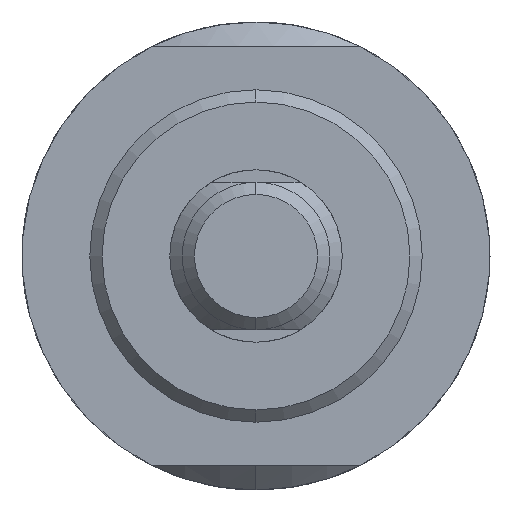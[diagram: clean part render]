
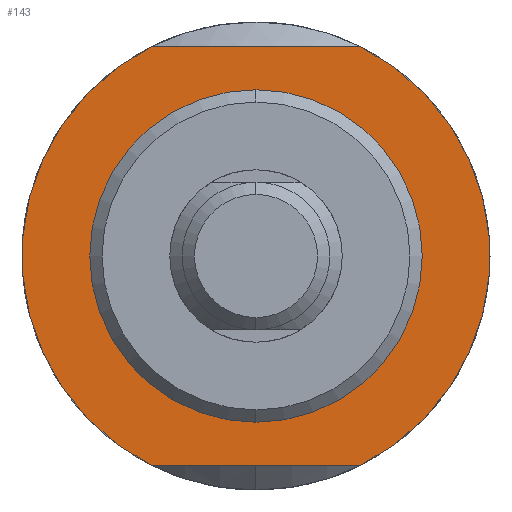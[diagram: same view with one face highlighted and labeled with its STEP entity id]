
A CAD part, left-side view. The second image highlights one B-rep face of the part: STEP entity #143.
In plain terms, the highlighted planar face has unit normal (-1, 0, 0).
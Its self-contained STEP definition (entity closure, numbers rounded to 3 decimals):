
#44 = EDGE_CURVE ( 'NONE', #1685, #86, #400, .T. ) ;
#86 = VERTEX_POINT ( 'NONE', #1959 ) ;
#88 = CARTESIAN_POINT ( 'NONE',  ( 48., 8.485, 17. ) ) ;
#113 = DIRECTION ( 'NONE',  ( 0., 0., 1. ) ) ;
#143 = ADVANCED_FACE ( 'NONE', ( #1171, #524 ), #497, .F. ) ;
#168 = EDGE_CURVE ( 'NONE', #1349, #631, #1762, .T. ) ;
#189 = CARTESIAN_POINT ( 'NONE',  ( 48., 8.485, -17. ) ) ;
#242 = AXIS2_PLACEMENT_3D ( 'NONE', #473, #1864, #1338 ) ;
#263 = DIRECTION ( 'NONE',  ( -1., 0., 0. ) ) ;
#284 = DIRECTION ( 'NONE',  ( 0., -1., 0. ) ) ;
#351 = DIRECTION ( 'NONE',  ( -1., 0., 0. ) ) ;
#372 = EDGE_CURVE ( 'NONE', #1406, #1489, #1738, .T. ) ;
#382 = ORIENTED_EDGE ( 'NONE', *, *, #1763, .F. ) ;
#400 = CIRCLE ( 'NONE', #562, 13.5 ) ;
#470 = DIRECTION ( 'NONE',  ( 0., 1., 0. ) ) ;
#473 = CARTESIAN_POINT ( 'NONE',  ( 48., 0., -19. ) ) ;
#489 = CARTESIAN_POINT ( 'NONE',  ( 48., 0., -13.5 ) ) ;
#497 = PLANE ( 'NONE',  #242 ) ;
#524 = FACE_OUTER_BOUND ( 'NONE', #1994, .T. ) ;
#562 = AXIS2_PLACEMENT_3D ( 'NONE', #1729, #1492, #1072 ) ;
#564 = EDGE_LOOP ( 'NONE', ( #382, #1712 ) ) ;
#631 = VERTEX_POINT ( 'NONE', #1451 ) ;
#649 = CARTESIAN_POINT ( 'NONE',  ( 48., -8.485, -17. ) ) ;
#651 = EDGE_CURVE ( 'NONE', #1406, #631, #1546, .T. ) ;
#719 = DIRECTION ( 'NONE',  ( 0., 0., 1. ) ) ;
#756 = VECTOR ( 'NONE', #470, 1000. ) ;
#864 = VECTOR ( 'NONE', #284, 1000. ) ;
#877 = EDGE_CURVE ( 'NONE', #1349, #1489, #1077, .T. ) ;
#884 = CARTESIAN_POINT ( 'NONE',  ( 48., 15., 17. ) ) ;
#967 = ORIENTED_EDGE ( 'NONE', *, *, #877, .T. ) ;
#974 = CIRCLE ( 'NONE', #1093, 13.5 ) ;
#1038 = CARTESIAN_POINT ( 'NONE',  ( 48., 0., 0. ) ) ;
#1051 = ORIENTED_EDGE ( 'NONE', *, *, #372, .F. ) ;
#1066 = AXIS2_PLACEMENT_3D ( 'NONE', #1650, #351, #719 ) ;
#1072 = DIRECTION ( 'NONE',  ( 0., 0., 1. ) ) ;
#1077 = CIRCLE ( 'NONE', #1653, 19. ) ;
#1093 = AXIS2_PLACEMENT_3D ( 'NONE', #1038, #1529, #1562 ) ;
#1171 = FACE_BOUND ( 'NONE', #564, .T. ) ;
#1269 = CARTESIAN_POINT ( 'NONE',  ( 48., 15., -17. ) ) ;
#1304 = CARTESIAN_POINT ( 'NONE',  ( 48., 0., 0. ) ) ;
#1338 = DIRECTION ( 'NONE',  ( 0., 0., -1. ) ) ;
#1349 = VERTEX_POINT ( 'NONE', #88 ) ;
#1406 = VERTEX_POINT ( 'NONE', #649 ) ;
#1451 = CARTESIAN_POINT ( 'NONE',  ( 48., -8.485, 17. ) ) ;
#1489 = VERTEX_POINT ( 'NONE', #189 ) ;
#1492 = DIRECTION ( 'NONE',  ( -1., 0., 0. ) ) ;
#1529 = DIRECTION ( 'NONE',  ( -1., 0., 0. ) ) ;
#1546 = CIRCLE ( 'NONE', #1066, 19. ) ;
#1562 = DIRECTION ( 'NONE',  ( 0., 0., 1. ) ) ;
#1650 = CARTESIAN_POINT ( 'NONE',  ( 48., 0., 0. ) ) ;
#1653 = AXIS2_PLACEMENT_3D ( 'NONE', #1304, #263, #113 ) ;
#1685 = VERTEX_POINT ( 'NONE', #489 ) ;
#1712 = ORIENTED_EDGE ( 'NONE', *, *, #44, .F. ) ;
#1729 = CARTESIAN_POINT ( 'NONE',  ( 48., 0., 0. ) ) ;
#1738 = LINE ( 'NONE', #1269, #756 ) ;
#1762 = LINE ( 'NONE', #884, #864 ) ;
#1763 = EDGE_CURVE ( 'NONE', #86, #1685, #974, .T. ) ;
#1864 = DIRECTION ( 'NONE',  ( 1., 0., 0. ) ) ;
#1941 = ORIENTED_EDGE ( 'NONE', *, *, #168, .F. ) ;
#1959 = CARTESIAN_POINT ( 'NONE',  ( 48., 0., 13.5 ) ) ;
#1970 = ORIENTED_EDGE ( 'NONE', *, *, #651, .T. ) ;
#1994 = EDGE_LOOP ( 'NONE', ( #967, #1051, #1970, #1941 ) ) ;
